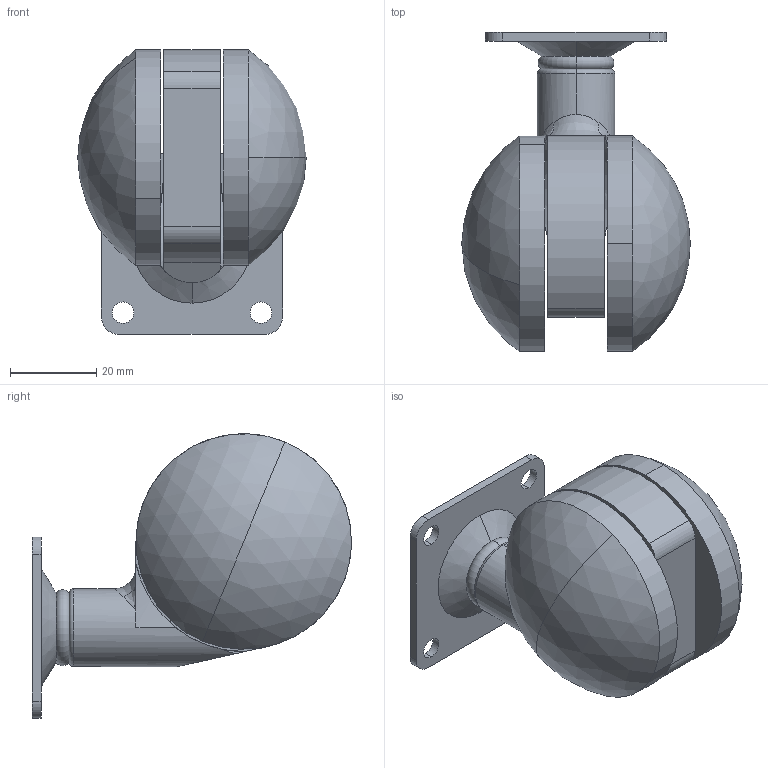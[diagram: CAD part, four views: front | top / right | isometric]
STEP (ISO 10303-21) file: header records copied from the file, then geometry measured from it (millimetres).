
FILE_DESCRIPTION (( 'STEP AP214' ), '1' );
FILE_NAME ('BOLA-50-P2.STEP', '2020-04-01T07:08:52', ( '' ), ( '' ), 'SwSTEP 2.0', 'SolidWorks 2019', '' );
FILE_SCHEMA (( 'AUTOMOTIVE_DESIGN' ));
Length unit declared in the file: millimetre
Products named in the file (4): BOLA-50-P2_partsA; BOLA-50_partsB; BOLA-50-P2; BOLA-50-P1_wheel
Assembly tree (4 placements, depth 2):
  BOLA-50-P2
    BOLA-50_partsB
    BOLA-50-P1_wheel  x2
    BOLA-50-P2_partsA
Bounding box: 53 x 74 x 66 mm (x, y, z)
Volume: 87025.8 mm3; surface area: 21904.6 mm2
Topology: 4 solids, 4 shells, 59 faces, 144 edges, 92 vertices
Faces by surface type: cylinder 29, plane 17, torus 4, sphere 4, bspline 3, cone 2
Entity records: 2181 total; most frequent: CARTESIAN_POINT 736, DIRECTION 289, ORIENTED_EDGE 264, EDGE_CURVE 132, AXIS2_PLACEMENT_3D 121, VERTEX_POINT 85, EDGE_LOOP 63, CIRCLE 63
